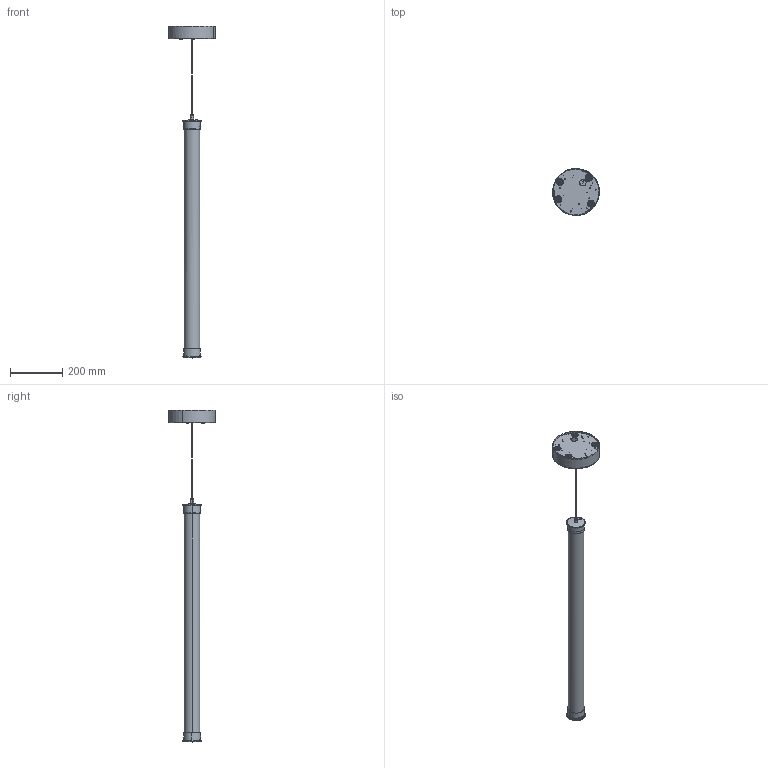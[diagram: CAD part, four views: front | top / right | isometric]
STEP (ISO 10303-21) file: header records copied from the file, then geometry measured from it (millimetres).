
FILE_DESCRIPTION(/* description */ (''),/* implementation_level */ '2;1');
FILE_NAME(/* name */ '00343MP0LD10ULPB - STACKING S 90 V NAKED USA',/* time_stamp */ '2023-09-27T17:26:06+02:00',/* author */ (''),/* organization */ (''),/* preprocessor_version */ 'ST-DEVELOPER v16.5',/* originating_system */ 'Rhino 7.27',/* authorisation */ '');
FILE_SCHEMA (('CONFIG_CONTROL_DESIGN'));
Length unit declared in the file: millimetre
Products named in the file (1): Document
Bounding box: 179.6 x 179.46 x 1270.06 mm (x, y, z)
Volume: 774180.1 mm3; surface area: 679168.2 mm2
Topology: 17 solids, 51 shells, 665 faces, 1757 edges, 1203 vertices
Faces by surface type: plane 274, cylinder 259, bspline 132
Entity records: 21999 total; most frequent: CARTESIAN_POINT 10615, ORIENTED_EDGE 3302, EDGE_CURVE 1747, VERTEX_POINT 1203, EDGE_LOOP 846, B_SPLINE_CURVE_WITH_KNOTS 816, ADVANCED_FACE 665, FACE_OUTER_BOUND 665
